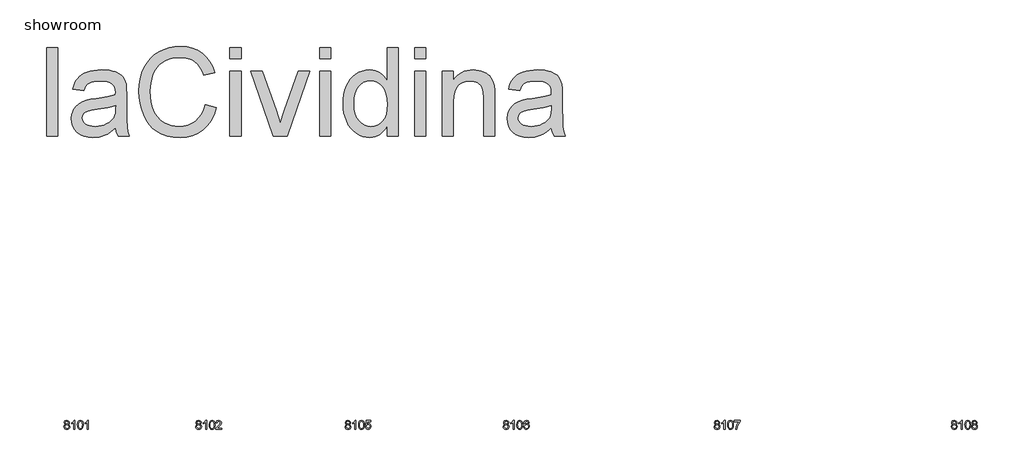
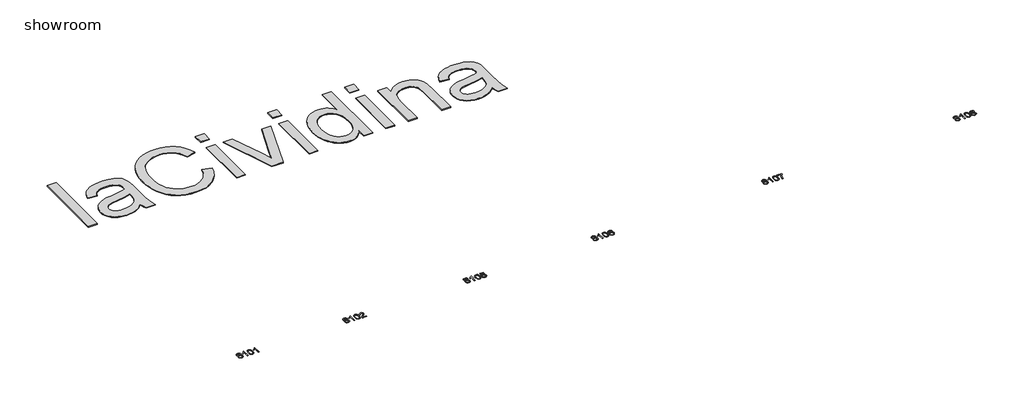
# One storey, incomplete: 7 proxies.
"""IFC4 building model written with IfcOpenShell, lengths in millimetres."""

from ifc_helpers import new_model, si_unit, origin, origin_with_axes, place, context, project, spatial, polyline, outline, extrude, element, save

model = new_model("IFC4")

# Units and contexts
model_context = context("Model", 3, world=origin())
ifc_project = project(units=[si_unit("LENGTHUNIT", "METRE", prefix="MILLI")], contexts=[model_context])

# Site, building, storey
site = spatial("IfcSite", under=ifc_project)
building = spatial("IfcBuilding", under=site)
storey = spatial("IfcBuildingStorey", under=building, Name="showroom", Elevation=0.0)

# Proxies
placement = place(None, origin())
element("IfcBuildingElementProxy", 1, Name="1000mm Arial", ObjectType="1000mm Arial", at=placement, inside=storey, context=model_context, shape_type="SweptSolid", body=[
    extrude(outline(polyline([(-1952.8965336, 4695.1020807), (-1952.8965336, 5699.6651822), (-1827.326146, 5699.6651822), (-1827.326146, 4695.1020807), (-1952.8965336, 4695.1020807)])), origin_with_axes(), (0.0, 0.0, 1.0), 10.0),
    extrude(outline(polyline([(-1168.0816106, 4789.2798714), (-1197.8570596, 4761.3361682), (-1228.0770326, 4737.8377058), (-1258.7415298, 4718.7844841), (-1289.850551, 4704.1765032), (-1321.7566499, 4693.3393128), (-1354.81238, 4685.5984625), (-1389.0177413, 4680.9539523), (-1424.3727339, 4679.4057822), (-1480.283133, 4683.1305874), (-1529.311073, 4694.305003), (-1571.4565541, 4712.929029), (-1606.7195762, 4739.0026654), (-1634.5636447, 4770.8704433), (-1654.4522651, 4806.8768935), (-1666.3854373, 4847.0220163), (-1670.3631613, 4891.3058114), (-1664.3544221, 4943.3611138), (-1656.843498, 4967.5953402), (-1646.3282043, 4990.6339501), (-1618.5224569, 5031.1009696), (-1583.1751285, 5062.7388212), (-1541.6351199, 5086.6511509), (-1495.2513316, 5103.9416046), (-1450.0631599, 5113.5678502), (-1386.6035157, 5122.8262137), (-1258.2126994, 5142.6918415), (-1208.6406006, 5153.9122423), (-1168.8173746, 5165.9910345), (-1168.0816106, 5193.9500661), (-1170.2429173, 5224.3923012), (-1176.7268375, 5249.9907567), (-1187.5333711, 5270.7454326), (-1202.6625181, 5286.6563289), (-1228.8127966, 5302.5365684), (-1260.665246, 5313.8795966), (-1298.2198664, 5320.6854135), (-1341.4766577, 5322.9540191), (-1381.6984225, 5321.4441701), (-1416.27933, 5316.914623), (-1445.2193803, 5309.3653779), (-1468.5185733, 5298.7964348), (-1487.6637655, 5284.3800591), (-1504.1418132, 5265.2885164), (-1517.9527164, 5241.5218066), (-1529.0964752, 5213.0799299), (-1654.6668629, 5228.7762283), (-1645.1095952, 5264.9512912), (-1632.8698547, 5297.4475341), (-1617.9476412, 5326.2649571), (-1600.3429549, 5351.4035601), (-1579.2970391, 5373.3691809), (-1554.0511372, 5392.6676572), (-1524.6052492, 5409.2989891), (-1490.959375, 5423.2631765), (-1453.7956293, 5434.3149647), (-1413.7961265, 5442.2090992), (-1370.9608667, 5446.9455799), (-1325.2898499, 5448.5244068), (-1240.4010795, 5442.9448632), (-1204.5555776, 5435.9704337), (-1173.1093312, 5426.2062324), (-1122.3722727, 5401.0369726), (-1102.8208775, 5386.3140286), (-1087.1475717, 5370.1655418), (-1063.787065, 5331.9977848), (-1048.6425895, 5284.9395463), (-1044.0440646, 5241.5294708), (-1042.5112229, 5175.065457), (-1042.5112229, 5018.8382364), (-1040.9170676, 4882.752555), (-1036.1346017, 4800.6842133), (-1026.6922971, 4746.7588442), (-1011.118626, 4695.1020807), (-1136.6890137, 4695.1020807), (-1156.7998961, 4738.7574108), (-1168.0816106, 4789.2798714)]), holes=[polyline([(-1168.0816106, 5040.4206468), (-1252.4492148, 5019.5126868), (-1370.6619626, 5001.9156646), (-1435.8077326, 4992.2894191), (-1478.6966419, 4981.5595276), (-1506.8089577, 4967.6413254), (-1527.6249472, 4948.450148), (-1540.500817, 4925.4575233), (-1544.7927737, 4900.1349793), (-1542.4551901, 4880.6219052), (-1535.4424396, 4862.7949568), (-1523.7545221, 4846.6541343), (-1507.3914375, 4832.1994375), (-1486.50647, 4820.2892579), (-1461.2529039, 4811.7819868), (-1431.6307391, 4806.6776241), (-1397.6399756, 4804.9761699), (-1362.9364407, 4806.8539009), (-1330.1949431, 4812.487094), (-1299.4154829, 4821.8757491), (-1270.5980599, 4835.0198662), (-1244.6010656, 4850.8311278), (-1222.2828912, 4868.2212162), (-1203.6435368, 4887.1901316), (-1188.6830023, 4907.7378739), (-1179.9917902, 4926.1319736), (-1173.7837815, 4948.450148), (-1168.8173746, 5004.8587206), (-1168.0816106, 5040.4206468)])]), origin_with_axes(), (0.0, 0.0, 1.0), 10.0),
    extrude(outline(polyline([(-147.8222106, 5052.1928707), (-22.2518229, 5019.8192551), (-47.099186, 4941.7286374), (-80.1932372, 4873.4941915), (-121.5339764, 4815.1159174), (-145.296854, 4789.6228448), (-171.1214037, 4766.5938151), (-227.8365446, 4728.4490507), (-290.5604248, 4701.2027904), (-359.2930442, 4684.8550343), (-434.0344029, 4679.4057822), (-510.6075073, 4683.5291262), (-579.6850161, 4695.8991583), (-641.2669293, 4716.5158785), (-695.3532468, 4745.3792867), (-742.6873968, 4782.0601873), (-784.0128076, 4826.1293846), (-819.3294792, 4877.5868787), (-848.6374114, 4936.4326695), (-871.6530288, 5000.1222399), (-888.0927554, 5066.1110728), (-897.9565914, 5134.3991682), (-901.2445368, 5204.986526), (-897.5273958, 5280.7242317), (-886.3759728, 5351.4648737), (-867.7902678, 5417.208452), (-841.7702809, 5477.9549664), (-808.8984918, 5532.7004058), (-769.7573803, 5580.4407589), (-724.3469465, 5621.1760257), (-672.6671904, 5654.9062061), (-616.4732157, 5681.3553887), (-557.5201259, 5700.247662), (-495.8079212, 5711.583026), (-431.3366016, 5715.3614806), (-359.5153062, 5710.4717158), (-293.6567649, 5695.8024212), (-233.7609776, 5671.353597), (-179.8279442, 5637.125243), (-132.746713, 5594.0217359), (-93.4063322, 5542.9474522), (-61.8068016, 5483.902392), (-37.9481214, 5416.8865552), (-163.5185091, 5386.9654863), (-183.2921663, 5436.3459799), (-207.0512119, 5478.5374462), (-234.7956457, 5513.5398852), (-266.5254677, 5541.3532969), (-302.4246191, 5562.5448327), (-342.6770407, 5577.6816439), (-387.2827327, 5586.7637307), (-436.2416949, 5589.7910929), (-492.5736254, 5586.4341697), (-544.0924331, 5576.3634001), (-590.7981181, 5559.5787841), (-632.6906803, 5536.0803216), (-669.2412893, 5506.9256735), (-699.9211149, 5473.1725005), (-724.7301569, 5434.8208025), (-743.6684155, 5391.8705795), (-757.6709239, 5346.2685406), (-767.6727157, 5299.9613944), (-773.6737907, 5252.9491411), (-775.6741491, 5205.2317807), (-773.3059087, 5145.2670154), (-766.2011877, 5089.2263248), (-754.359986, 5037.1097089), (-737.7823036, 4988.9171675), (-716.1998932, 4945.6067268), (-689.3445075, 4908.1364127), (-657.2161466, 4876.5062253), (-619.8148104, 4850.7161646), (-578.9569164, 4830.7049169), (-536.4588817, 4816.4111686), (-492.3207065, 4807.8349196), (-446.5423907, 4804.9761699), (-391.9502355, 4808.8695877), (-341.7266789, 4820.549841), (-295.8717211, 4840.0169299), (-254.3853619, 4867.2708544), (-218.2486201, 4902.1889871), (-188.4425143, 4944.6487007), (-164.9670445, 4994.6499952), (-147.8222106, 5052.1928707)])), origin_with_axes(), (0.0, 0.0, 1.0), 10.0),
    extrude(outline(polyline([(134.7111617, 4695.1020807), (134.7111617, 5432.8281083), (260.2815493, 5432.8281083), (260.2815493, 4695.1020807), (134.7111617, 4695.1020807)])), origin_with_axes(), (0.0, 0.0, 1.0), 10.0),
    extrude(outline(polyline([(134.7111617, 5574.0947945), (134.7111617, 5699.6651822), (260.2815493, 5699.6651822), (260.2815493, 5574.0947945), (134.7111617, 5574.0947945)])), origin_with_axes(), (0.0, 0.0, 1.0), 10.0),
    extrude(outline(polyline([(629.6350725, 4695.1020807), (370.1556386, 5432.8281083), (503.0836662, 5432.8281083), (660.2919054, 4990.8792048), (707.6260555, 4842.2548787), (753.9791869, 4982.5405462), (912.1684448, 5432.8281083), (1045.0964724, 5432.8281083), (788.8053491, 4695.1020807), (629.6350725, 4695.1020807)])), origin_with_axes(), (0.0, 0.0, 1.0), 10.0),
    extrude(outline(polyline([(1154.9705616, 4695.1020807), (1154.9705616, 5432.8281083), (1280.5409493, 5432.8281083), (1280.5409493, 4695.1020807), (1154.9705616, 4695.1020807)])), origin_with_axes(), (0.0, 0.0, 1.0), 10.0),
    extrude(outline(polyline([(1154.9705616, 5574.0947945), (1154.9705616, 5699.6651822), (1280.5409493, 5699.6651822), (1280.5409493, 5574.0947945), (1154.9705616, 5574.0947945)])), origin_with_axes(), (0.0, 0.0, 1.0), 10.0),
    extrude(outline(polyline([(1924.0891862, 4695.1020807), (1924.0891862, 4813.5600831), (1906.2967268, 4782.1176688), (1886.5192374, 4754.8675765), (1864.7567182, 4731.809806), (1841.009169, 4712.9443574), (1815.2765898, 4698.2712308), (1787.5589807, 4687.790426), (1757.8563417, 4681.5019432), (1726.1686728, 4679.4057822), (1684.7206347, 4682.4408087), (1644.9893792, 4691.5458881), (1606.9749064, 4706.7210204), (1570.6772162, 4727.9662056), (1537.2306114, 4754.6453144), (1507.769395, 4786.1222176), (1482.2935668, 4822.3969152), (1460.8031269, 4863.4694071), (1443.7425994, 4908.5579442), (1431.5565083, 4956.8807771), (1424.2448537, 5008.4379059), (1421.8076355, 5063.2293305), (1424.0532485, 5117.0167439), (1430.7900875, 5168.2596401), (1442.0181526, 5216.9580192), (1457.7374436, 5263.1118812), (1477.9402965, 5305.3723254), (1502.6190471, 5342.3904512), (1531.7736952, 5374.1662585), (1565.4042409, 5400.6997474), (1602.322732, 5421.6230359), (1641.3412161, 5436.568242), (1682.4596932, 5445.5353656), (1725.6781635, 5448.5244068), (1757.2853582, 5446.3860927), (1787.1144567, 5439.9711504), (1815.1654588, 5429.2795799), (1841.4383646, 5414.3113812), (1865.6419342, 5395.9249457), (1887.4849277, 5374.9786646), (1906.967345, 5351.4725379), (1924.0891862, 5325.4065657), (1924.0891862, 5699.6651822), (2049.6595739, 5699.6651822), (2049.6595739, 4695.1020807), (1924.0891862, 4695.1020807)]), holes=[polyline([(1547.3780231, 5063.7198398), (1550.9188873, 5002.8277054), (1561.54148, 4950.1362738), (1579.245801, 4905.645545), (1604.0318504, 4869.3555191), (1633.6310226, 4841.1895538), (1665.7747119, 4821.0710072), (1700.4629184, 4808.9998792), (1737.695642, 4804.9761699), (1775.1046424, 4808.8159382), (1809.5859152, 4820.3352432), (1841.1394605, 4839.5340848), (1869.7652782, 4866.4124631), (1893.531988, 4901.1849758), (1910.5082092, 4944.0662209), (1920.693942, 4995.0561983), (1924.0891862, 5054.154908), (1920.6326283, 5118.9481244), (1910.2629545, 5174.5136341), (1892.980165, 5220.851437), (1868.7842596, 5257.9615333), (1839.5299768, 5286.3957458), (1807.0720549, 5306.7058977), (1771.410494, 5318.8919887), (1732.545294, 5322.9540191), (1694.5768065, 5319.0529371), (1659.8886, 5307.3496911), (1628.4806747, 5287.8442812), (1600.3530304, 5260.5367073), (1577.1764647, 5224.8291611), (1560.621775, 5180.1238345), (1550.6889611, 5126.4207274), (1547.3780231, 5063.7198398)])]), origin_with_axes(), (0.0, 0.0, 1.0), 10.0),
    extrude(outline(polyline([(2238.0151554, 4695.1020807), (2238.0151554, 5432.8281083), (2363.5855431, 5432.8281083), (2363.5855431, 4695.1020807), (2238.0151554, 4695.1020807)])), origin_with_axes(), (0.0, 0.0, 1.0), 10.0),
    extrude(outline(polyline([(2238.0151554, 5574.0947945), (2238.0151554, 5699.6651822), (2363.5855431, 5699.6651822), (2363.5855431, 5574.0947945), (2238.0151554, 5574.0947945)])), origin_with_axes(), (0.0, 0.0, 1.0), 10.0),
    extrude(outline(polyline([(2551.9411246, 4695.1020807), (2551.9411246, 5432.8281083), (2677.5115123, 5432.8281083), (2677.5115123, 5329.8211497), (2698.2278672, 5357.6422256), (2721.1361856, 5381.7538247), (2746.2364675, 5402.155947), (2773.5287131, 5418.8485925), (2803.0129221, 5431.8317613), (2834.6890948, 5441.1054532), (2868.5572309, 5446.6696684), (2904.6173307, 5448.5244068), (2966.5134764, 5442.5463244), (2995.5071761, 5435.0737213), (3023.1979605, 5424.6120771), (3048.5358329, 5411.7208789), (3070.4707968, 5396.9596138), (3089.0028523, 5380.3282819), (3104.1319994, 5361.8268833), (3126.9713399, 5319.305856), (3141.7785902, 5269.4885025), (3146.7449972, 5221.8477841), (3148.4004661, 5148.0874441), (3148.4004661, 4695.1020807), (3022.8300785, 4695.1020807), (3022.8300785, 5131.1648723), (3019.2125722, 5196.0960444), (3008.3600533, 5242.2652348), (2999.7378191, 5259.7319654), (2988.3411414, 5275.3439576), (2974.1700204, 5289.1012113), (2957.224456, 5301.0037267), (2917.3399163, 5317.466446), (2871.0174418, 5322.9540191), (2832.8880058, 5319.8730074), (2797.4716996, 5310.6299723), (2764.7685231, 5295.2249137), (2734.7784762, 5273.6578318), (2709.7241795, 5243.4761797), (2691.8282533, 5202.227411), (2681.0906976, 5149.9115256), (2677.5115123, 5086.5285235), (2677.5115123, 4695.1020807), (2551.9411246, 4695.1020807)])), origin_with_axes(), (0.0, 0.0, 1.0), 10.0),
    extrude(outline(polyline([(3791.948703, 4789.2798714), (3762.1732541, 4761.3361682), (3731.953281, 4737.8377058), (3701.2887839, 4718.7844841), (3670.1797626, 4704.1765032), (3638.2736638, 4693.3393128), (3605.2179337, 4685.5984625), (3571.0125723, 4680.9539523), (3535.6575797, 4679.4057822), (3479.7471807, 4683.1305874), (3430.7192406, 4694.305003), (3388.5737595, 4712.929029), (3353.3107375, 4739.0026654), (3325.466669, 4770.8704433), (3305.5780486, 4806.8768935), (3293.6448764, 4847.0220163), (3289.6671523, 4891.3058114), (3295.6758915, 4943.3611138), (3303.1868156, 4967.5953402), (3313.7021093, 4990.6339501), (3341.5078568, 5031.1009696), (3376.8551852, 5062.7388212), (3418.3951938, 5086.6511509), (3464.778982, 5103.9416046), (3509.9671537, 5113.5678502), (3573.4267979, 5122.8262137), (3701.8176142, 5142.6918415), (3751.3897131, 5153.9122423), (3791.2129391, 5165.9910345), (3791.948703, 5193.9500661), (3789.7873963, 5224.3923012), (3783.3034762, 5249.9907567), (3772.4969425, 5270.7454326), (3757.3677955, 5286.6563289), (3731.217517, 5302.5365684), (3699.3650676, 5313.8795966), (3661.8104472, 5320.6854135), (3618.553656, 5322.9540191), (3578.3318912, 5321.4441701), (3543.7509836, 5316.914623), (3514.8109333, 5309.3653779), (3491.5117403, 5298.7964348), (3472.3665481, 5284.3800591), (3455.8885004, 5265.2885164), (3442.0775972, 5241.5218066), (3430.9338384, 5213.0799299), (3305.3634508, 5228.7762283), (3314.9207184, 5264.9512912), (3327.160459, 5297.4475341), (3342.0826724, 5326.2649571), (3359.6873587, 5351.4035601), (3380.7332745, 5373.3691809), (3405.9791764, 5392.6676572), (3435.4250645, 5409.2989891), (3469.0709386, 5423.2631765), (3506.2346843, 5434.3149647), (3546.2341871, 5442.2090992), (3589.0694469, 5446.9455799), (3634.7404638, 5448.5244068), (3719.6292342, 5442.9448632), (3755.4747361, 5435.9704337), (3786.9209824, 5426.2062324), (3837.6580409, 5401.0369726), (3857.2094361, 5386.3140286), (3872.882742, 5370.1655418), (3896.2432487, 5331.9977848), (3911.3877241, 5284.9395463), (3915.9862491, 5241.5294708), (3917.5190907, 5175.065457), (3917.5190907, 5018.8382364), (3919.113246, 4882.752555), (3923.895712, 4800.6842133), (3933.3380165, 4746.7588442), (3948.9116877, 4695.1020807), (3823.3413, 4695.1020807), (3803.2304176, 4738.7574108), (3791.948703, 4789.2798714)]), holes=[polyline([(3791.948703, 5040.4206468), (3707.5810988, 5019.5126868), (3589.368351, 5001.9156646), (3524.2225811, 4992.2894191), (3481.3336718, 4981.5595276), (3453.221356, 4967.6413254), (3432.4053664, 4948.450148), (3419.5294966, 4925.4575233), (3415.23754, 4900.1349793), (3417.5751235, 4880.6219052), (3424.587874, 4862.7949568), (3436.2757916, 4846.6541343), (3452.6388762, 4832.1994375), (3473.5238436, 4820.2892579), (3498.7774097, 4811.7819868), (3528.3995745, 4806.6776241), (3562.3903381, 4804.9761699), (3597.0938729, 4806.8539009), (3629.8353705, 4812.487094), (3660.6148308, 4821.8757491), (3689.4322537, 4835.0198662), (3715.429248, 4850.8311278), (3737.7474224, 4868.2212162), (3756.3867768, 4887.1901316), (3771.3473113, 4907.7378739), (3780.0385234, 4926.1319736), (3786.2465321, 4948.450148), (3791.2129391, 5004.8587206), (3791.948703, 5040.4206468)])]), origin_with_axes(), (0.0, 0.0, 1.0), 10.0),
])
element("IfcBuildingElementProxy", 2, Name="100mm Arial", ObjectType="100mm Arial", at=placement, inside=storey, context=model_context, shape_type="SweptSolid", body=[
    extrude(outline(polyline([(-1736.9038584, 1410.4315327), (-1748.3449884, 1418.230631), (-1752.0605966, 1430.3707369), (-1750.0372456, 1440.1870548), (-1743.9671927, 1448.2988528), (-1734.5310195, 1453.7435063), (-1722.4093078, 1455.5583908), (-1710.2140196, 1453.7005867), (-1700.6552191, 1448.1271745), (-1694.4748016, 1439.8866178), (-1692.4146624, 1430.0273804), (-1696.0812196, 1418.1938428), (-1707.2035186, 1410.4315327), (-1693.8494022, 1400.584558), (-1689.2754027, 1384.3364366), (-1691.5440084, 1372.3312208), (-1698.3498253, 1362.4106696), (-1708.8589876, 1355.7520055), (-1722.2376295, 1353.5324508), (-1735.6162714, 1355.7612026), (-1746.1254337, 1362.4474578), (-1752.9312506, 1372.4630452), (-1755.1998563, 1384.6797931), (-1750.4419158, 1401.3080593), (-1736.9038584, 1410.4315327)]), holes=[polyline([(-1739.5035578, 1430.0028549), (-1735.0521857, 1420.1436174), (-1722.0904767, 1416.3176447), (-1709.3862851, 1420.119092), (-1704.9717012, 1429.4387692), (-1709.5334379, 1439.0895402), (-1722.2376295, 1443.0013521), (-1734.9786093, 1439.1753793), (-1739.5035578, 1430.0028549)]), polyline([(-1742.6428175, 1385.1212515), (-1740.5458901, 1375.6666842), (-1733.1269365, 1368.5910872), (-1722.1395276, 1366.0894896), (-1713.5924026, 1367.4046677), (-1707.1789932, 1371.3502021), (-1701.8324415, 1384.728844), (-1707.3506714, 1398.3650033), (-1713.9112337, 1402.4117053), (-1722.5564606, 1403.7606059), (-1730.9840239, 1402.4300994), (-1737.333054, 1398.4385797), (-1742.6428175, 1385.1212515)])]), origin_with_axes(), (0.0, 0.0, 1.0), 2.0),
    extrude(outline(polyline([(-1631.1990984, 1355.1020807), (-1643.7561372, 1355.1020807), (-1643.7561372, 1433.3873692), (-1655.6509884, 1424.9138206), (-1668.8702147, 1418.5739876), (-1668.8702147, 1430.4443133), (-1650.4638522, 1442.1920117), (-1639.2925023, 1455.5583908), (-1631.1990984, 1455.5583908), (-1631.1990984, 1355.1020807)])), origin_with_axes(), (0.0, 0.0, 1.0), 2.0),
    extrude(outline(polyline([(-1601.3761313, 1404.5208954), (-1597.6850487, 1433.4241574), (-1586.7221652, 1450.0892118), (-1568.4139046, 1455.5583908), (-1553.7476757, 1452.3210293), (-1543.6186581, 1442.9890893), (-1537.7325462, 1428.1266567), (-1535.4516778, 1404.5208954), (-1539.1059723, 1375.7402606), (-1550.0320675, 1359.038418), (-1558.2634272, 1354.9089426), (-1568.4139046, 1353.5324508), (-1581.4614527, 1355.9236838), (-1591.3697411, 1363.0973827), (-1598.8745338, 1380.0873995), (-1601.3761313, 1404.5208954)]), holes=[polyline([(-1588.8190926, 1404.5454208), (-1587.3475646, 1384.7932234), (-1582.9329806, 1373.3612904), (-1576.3601557, 1367.9074398), (-1568.4139046, 1366.0894896), (-1560.4676535, 1367.9135712), (-1553.8948285, 1373.3858158), (-1549.4802446, 1384.8238802), (-1548.0087166, 1404.5454208), (-1549.4311936, 1423.8530942), (-1553.6986248, 1435.373932), (-1560.259187, 1441.094497), (-1568.5610574, 1443.0013521), (-1576.4214693, 1441.3213576), (-1582.7367769, 1436.2813743), (-1587.2985137, 1424.0431666), (-1588.8190926, 1404.5454208)])]), origin_with_axes(), (0.0, 0.0, 1.0), 2.0),
    extrude(outline(polyline([(-1477.3753735, 1355.1020807), (-1489.9324123, 1355.1020807), (-1489.9324123, 1433.3873692), (-1501.8272634, 1424.9138206), (-1515.0464898, 1418.5739876), (-1515.0464898, 1430.4443133), (-1496.6401273, 1442.1920117), (-1485.4687774, 1455.5583908), (-1477.3753735, 1455.5583908), (-1477.3753735, 1355.1020807)])), origin_with_axes(), (0.0, 0.0, 1.0), 2.0),
])
element("IfcBuildingElementProxy", 3, Name="100mm Arial", ObjectType="100mm Arial", at=placement, inside=storey, context=model_context, shape_type="SweptSolid", body=[
    extrude(outline(polyline([(-236.9038584, 1410.4315327), (-248.3449884, 1418.230631), (-252.0605966, 1430.3707369), (-250.0372456, 1440.1870548), (-243.9671927, 1448.2988528), (-234.5310195, 1453.7435063), (-222.4093078, 1455.5583908), (-210.2140196, 1453.7005867), (-200.6552191, 1448.1271745), (-194.4748016, 1439.8866178), (-192.4146624, 1430.0273804), (-196.0812196, 1418.1938428), (-207.2035186, 1410.4315327), (-193.8494022, 1400.584558), (-189.2754027, 1384.3364366), (-191.5440084, 1372.3312208), (-198.3498253, 1362.4106696), (-208.8589876, 1355.7520055), (-222.2376295, 1353.5324508), (-235.6162714, 1355.7612026), (-246.1254337, 1362.4474578), (-252.9312506, 1372.4630452), (-255.1998563, 1384.6797931), (-250.4419158, 1401.3080593), (-236.9038584, 1410.4315327)]), holes=[polyline([(-239.5035578, 1430.0028549), (-235.0521857, 1420.1436174), (-222.0904767, 1416.3176447), (-209.3862851, 1420.119092), (-204.9717012, 1429.4387692), (-209.5334379, 1439.0895402), (-222.2376295, 1443.0013521), (-234.9786093, 1439.1753793), (-239.5035578, 1430.0028549)]), polyline([(-242.6428175, 1385.1212515), (-240.5458901, 1375.6666842), (-233.1269365, 1368.5910872), (-222.1395276, 1366.0894896), (-213.5924026, 1367.4046677), (-207.1789932, 1371.3502021), (-201.8324415, 1384.728844), (-207.3506714, 1398.3650033), (-213.9112337, 1402.4117053), (-222.5564606, 1403.7606059), (-230.9840239, 1402.4300994), (-237.333054, 1398.4385797), (-242.6428175, 1385.1212515)])]), origin_with_axes(), (0.0, 0.0, 1.0), 2.0),
    extrude(outline(polyline([(-131.1990984, 1355.1020807), (-143.7561372, 1355.1020807), (-143.7561372, 1433.3873692), (-155.6509884, 1424.9138206), (-168.8702147, 1418.5739876), (-168.8702147, 1430.4443133), (-150.4638522, 1442.1920117), (-139.2925023, 1455.5583908), (-131.1990984, 1455.5583908), (-131.1990984, 1355.1020807)])), origin_with_axes(), (0.0, 0.0, 1.0), 2.0),
    extrude(outline(polyline([(-101.3761313, 1404.5208954), (-97.6850487, 1433.4241574), (-86.7221652, 1450.0892118), (-68.4139046, 1455.5583908), (-53.7476757, 1452.3210293), (-43.6186581, 1442.9890893), (-37.7325462, 1428.1266567), (-35.4516778, 1404.5208954), (-39.1059723, 1375.7402606), (-50.0320675, 1359.038418), (-58.2634272, 1354.9089426), (-68.4139046, 1353.5324508), (-81.4614527, 1355.9236838), (-91.3697411, 1363.0973827), (-98.8745338, 1380.0873995), (-101.3761313, 1404.5208954)]), holes=[polyline([(-88.8190926, 1404.5454208), (-87.3475646, 1384.7932234), (-82.9329806, 1373.3612904), (-76.3601557, 1367.9074398), (-68.4139046, 1366.0894896), (-60.4676535, 1367.9135712), (-53.8948285, 1373.3858158), (-49.4802446, 1384.8238802), (-48.0087166, 1404.5454208), (-49.4311936, 1423.8530942), (-53.6986248, 1435.373932), (-60.259187, 1441.094497), (-68.5610574, 1443.0013521), (-76.4214693, 1441.3213576), (-82.7367769, 1436.2813743), (-87.2985137, 1424.0431666), (-88.8190926, 1404.5454208)])]), origin_with_axes(), (0.0, 0.0, 1.0), 2.0),
    extrude(outline(polyline([(39.8905548, 1367.6591194), (39.8905548, 1355.1020807), (-26.0338987, 1355.1020807), (-24.6849981, 1363.7595703), (-17.057578, 1377.0891613), (-1.3367541, 1391.6450255), (20.3437581, 1412.5652483), (25.7638862, 1426.7900188), (20.6503265, 1438.3047252), (7.29621, 1443.0013521), (-6.6219921, 1438.4150898), (-11.9072301, 1425.7354237), (-24.4642689, 1427.3050536), (-21.4200454, 1439.4512908), (-14.8380233, 1448.3233782), (-5.0615593, 1453.7496377), (7.5659902, 1455.5583908), (20.2855101, 1453.5473026), (30.0435801, 1447.5140379), (36.2515887, 1438.500929), (38.320925, 1427.5503083), (36.0891075, 1415.6431943), (28.670154, 1403.3314102), (10.6807244, 1386.1267956), (-3.7647753, 1374.0480034), (-9.430158, 1367.6591194), (39.8905548, 1367.6591194)])), origin_with_axes(), (0.0, 0.0, 1.0), 2.0),
])
element("IfcBuildingElementProxy", 4, Name="100mm Arial", ObjectType="100mm Arial", at=placement, inside=storey, context=model_context, shape_type="SweptSolid", body=[
    extrude(outline(polyline([(1463.0961416, 1410.4315327), (1451.6550116, 1418.230631), (1447.9394034, 1430.3707369), (1449.9627544, 1440.1870548), (1456.0328073, 1448.2988528), (1465.4689805, 1453.7435063), (1477.5906922, 1455.5583908), (1489.7859804, 1453.7005867), (1499.3447809, 1448.1271745), (1505.5251984, 1439.8866178), (1507.5853376, 1430.0273804), (1503.9187804, 1418.1938428), (1492.7964814, 1410.4315327), (1506.1505978, 1400.584558), (1510.7245973, 1384.3364366), (1508.4559916, 1372.3312208), (1501.6501747, 1362.4106696), (1491.1410124, 1355.7520055), (1477.7623705, 1353.5324508), (1464.3837286, 1355.7612026), (1453.8745663, 1362.4474578), (1447.0687494, 1372.4630452), (1444.8001437, 1384.6797931), (1449.5580842, 1401.3080593), (1463.0961416, 1410.4315327)]), holes=[polyline([(1460.4964422, 1430.0028549), (1464.9478143, 1420.1436174), (1477.9095233, 1416.3176447), (1490.6137149, 1420.119092), (1495.0282988, 1429.4387692), (1490.4665621, 1439.0895402), (1477.7623705, 1443.0013521), (1465.0213907, 1439.1753793), (1460.4964422, 1430.0028549)]), polyline([(1457.3571825, 1385.1212515), (1459.4541099, 1375.6666842), (1466.8730635, 1368.5910872), (1477.8604724, 1366.0894896), (1486.4075974, 1367.4046677), (1492.8210068, 1371.3502021), (1498.1675585, 1384.728844), (1492.6493286, 1398.3650033), (1486.0887663, 1402.4117053), (1477.4435394, 1403.7606059), (1469.0159761, 1402.4300994), (1462.666946, 1398.4385797), (1457.3571825, 1385.1212515)])]), origin_with_axes(), (0.0, 0.0, 1.0), 2.0),
    extrude(outline(polyline([(1568.8009016, 1355.1020807), (1556.2438628, 1355.1020807), (1556.2438628, 1433.3873692), (1544.3490116, 1424.9138206), (1531.1297853, 1418.5739876), (1531.1297853, 1430.4443133), (1549.5361478, 1442.1920117), (1560.7074977, 1455.5583908), (1568.8009016, 1455.5583908), (1568.8009016, 1355.1020807)])), origin_with_axes(), (0.0, 0.0, 1.0), 2.0),
    extrude(outline(polyline([(1598.6238687, 1404.5208954), (1602.3149513, 1433.4241574), (1613.2778348, 1450.0892118), (1631.5860954, 1455.5583908), (1646.2523243, 1452.3210293), (1656.3813419, 1442.9890893), (1662.2674538, 1428.1266567), (1664.5483222, 1404.5208954), (1660.8940277, 1375.7402606), (1649.9679325, 1359.038418), (1641.7365728, 1354.9089426), (1631.5860954, 1353.5324508), (1618.5385473, 1355.9236838), (1608.6302589, 1363.0973827), (1601.1254662, 1380.0873995), (1598.6238687, 1404.5208954)]), holes=[polyline([(1611.1809074, 1404.5454208), (1612.6524354, 1384.7932234), (1617.0670194, 1373.3612904), (1623.6398443, 1367.9074398), (1631.5860954, 1366.0894896), (1639.5323465, 1367.9135712), (1646.1051715, 1373.3858158), (1650.5197554, 1384.8238802), (1651.9912834, 1404.5454208), (1650.5688064, 1423.8530942), (1646.3013752, 1435.373932), (1639.740813, 1441.094497), (1631.4389426, 1443.0013521), (1623.5785307, 1441.3213576), (1617.2632231, 1436.2813743), (1612.7014863, 1424.0431666), (1611.1809074, 1404.5454208)])]), origin_with_axes(), (0.0, 0.0, 1.0), 2.0),
    extrude(outline(polyline([(1675.5357311, 1381.7857881), (1688.0927699, 1383.3554179), (1694.4203402, 1370.4182344), (1707.5414647, 1366.0894896), (1716.5423108, 1367.5947401), (1723.2868141, 1372.1104916), (1727.4990629, 1379.1155779), (1728.9031459, 1388.0888329), (1723.6424334, 1403.0003164), (1717.0358859, 1407.1022007), (1707.7376684, 1408.4694954), (1696.7134713, 1406.2867289), (1689.6623997, 1400.6213462), (1677.105361, 1402.1909761), (1688.0927699, 1453.988761), (1736.7512951, 1453.988761), (1736.7512951, 1441.4317222), (1698.246313, 1441.4317222), (1692.8752358, 1413.7669962), (1701.8454251, 1419.2116497), (1711.2448101, 1421.0265342), (1722.9771801, 1418.7763227), (1732.7168559, 1412.0256881), (1739.2743525, 1401.7372549), (1741.4601847, 1388.8736478), (1739.492016, 1376.3166091), (1733.58751, 1365.5744548), (1722.28127, 1356.5429518), (1707.4924138, 1353.5324508), (1695.1591699, 1355.466897), (1685.3336549, 1361.2702355), (1678.5983487, 1370.2680159), (1675.5357311, 1381.7857881)])), origin_with_axes(), (0.0, 0.0, 1.0), 2.0),
])
element("IfcBuildingElementProxy", 5, Name="100mm Arial", ObjectType="100mm Arial", at=placement, inside=storey, context=model_context, shape_type="SweptSolid", body=[
    extrude(outline(polyline([(3263.0961416, 1410.4315327), (3251.6550116, 1418.230631), (3247.9394034, 1430.3707369), (3249.9627544, 1440.1870548), (3256.0328073, 1448.2988528), (3265.4689805, 1453.7435063), (3277.5906922, 1455.5583908), (3289.7859804, 1453.7005867), (3299.3447809, 1448.1271745), (3305.5251984, 1439.8866178), (3307.5853376, 1430.0273804), (3303.9187804, 1418.1938428), (3292.7964814, 1410.4315327), (3306.1505978, 1400.584558), (3310.7245973, 1384.3364366), (3308.4559916, 1372.3312208), (3301.6501747, 1362.4106696), (3291.1410124, 1355.7520055), (3277.7623705, 1353.5324508), (3264.3837286, 1355.7612026), (3253.8745663, 1362.4474578), (3247.0687494, 1372.4630452), (3244.8001437, 1384.6797931), (3249.5580842, 1401.3080593), (3263.0961416, 1410.4315327)]), holes=[polyline([(3260.4964422, 1430.0028549), (3264.9478143, 1420.1436174), (3277.9095233, 1416.3176447), (3290.6137149, 1420.119092), (3295.0282988, 1429.4387692), (3290.4665621, 1439.0895402), (3277.7623705, 1443.0013521), (3265.0213907, 1439.1753793), (3260.4964422, 1430.0028549)]), polyline([(3257.3571825, 1385.1212515), (3259.4541099, 1375.6666842), (3266.8730635, 1368.5910872), (3277.8604724, 1366.0894896), (3286.4075974, 1367.4046677), (3292.8210068, 1371.3502021), (3298.1675585, 1384.728844), (3292.6493286, 1398.3650033), (3286.0887663, 1402.4117053), (3277.4435394, 1403.7606059), (3269.0159761, 1402.4300994), (3262.666946, 1398.4385797), (3257.3571825, 1385.1212515)])]), origin_with_axes(), (0.0, 0.0, 1.0), 2.0),
    extrude(outline(polyline([(3368.8009016, 1355.1020807), (3356.2438628, 1355.1020807), (3356.2438628, 1433.3873692), (3344.3490116, 1424.9138206), (3331.1297853, 1418.5739876), (3331.1297853, 1430.4443133), (3349.5361478, 1442.1920117), (3360.7074977, 1455.5583908), (3368.8009016, 1455.5583908), (3368.8009016, 1355.1020807)])), origin_with_axes(), (0.0, 0.0, 1.0), 2.0),
    extrude(outline(polyline([(3398.6238687, 1404.5208954), (3402.3149513, 1433.4241574), (3413.2778348, 1450.0892118), (3431.5860954, 1455.5583908), (3446.2523243, 1452.3210293), (3456.3813419, 1442.9890893), (3462.2674538, 1428.1266567), (3464.5483222, 1404.5208954), (3460.8940277, 1375.7402606), (3449.9679325, 1359.038418), (3441.7365728, 1354.9089426), (3431.5860954, 1353.5324508), (3418.5385473, 1355.9236838), (3408.6302589, 1363.0973827), (3401.1254662, 1380.0873995), (3398.6238687, 1404.5208954)]), holes=[polyline([(3411.1809074, 1404.5454208), (3412.6524354, 1384.7932234), (3417.0670194, 1373.3612904), (3423.6398443, 1367.9074398), (3431.5860954, 1366.0894896), (3439.5323465, 1367.9135712), (3446.1051715, 1373.3858158), (3450.5197554, 1384.8238802), (3451.9912834, 1404.5454208), (3450.5688064, 1423.8530942), (3446.3013752, 1435.373932), (3439.740813, 1441.094497), (3431.4389426, 1443.0013521), (3423.5785307, 1441.3213576), (3417.2632231, 1436.2813743), (3412.7014863, 1424.0431666), (3411.1809074, 1404.5454208)])]), origin_with_axes(), (0.0, 0.0, 1.0), 2.0),
    extrude(outline(polyline([(3539.8905548, 1428.8746834), (3527.333516, 1427.3050536), (3522.5755756, 1437.7774277), (3509.9940113, 1443.0013521), (3498.6632459, 1439.9601942), (3490.0915954, 1428.5435896), (3486.52314, 1406.1641016), (3497.5963881, 1416.1827546), (3511.3183865, 1419.4569044), (3522.9189321, 1417.2189556), (3532.6555422, 1410.5051091), (3539.259024, 1400.2473328), (3541.4601847, 1387.3775944), (3537.3153808, 1370.0503524), (3525.911039, 1357.7876192), (3509.4544511, 1353.5324508), (3495.2082208, 1356.3528795), (3483.8621269, 1364.8141653), (3476.4401077, 1379.7501743), (3473.9661013, 1401.9947723), (3476.7129535, 1427.0046166), (3484.9535102, 1444.104998), (3496.2045679, 1452.6950426), (3510.7788263, 1455.5583908), (3521.796892, 1453.7864259), (3530.6199285, 1448.470531), (3536.800346, 1440.0276393), (3539.8905548, 1428.8746834)]), holes=[polyline([(3486.52314, 1387.5737981), (3489.4294078, 1376.6967538), (3497.1549297, 1368.7995536), (3508.4734324, 1366.0894896), (3516.7599744, 1367.4935725), (3523.2745514, 1371.7058214), (3527.4959973, 1378.3276973), (3528.9031459, 1386.9606615), (3527.5143914, 1395.2472034), (3523.3481278, 1401.5655767), (3516.7231862, 1405.5662934), (3507.9583976, 1406.8998656), (3492.7648712, 1401.5655767), (3488.0835728, 1395.4004876), (3486.52314, 1387.5737981)])]), origin_with_axes(), (0.0, 0.0, 1.0), 2.0),
])
element("IfcBuildingElementProxy", 6, Name="100mm Arial", ObjectType="100mm Arial", at=placement, inside=storey, context=model_context, shape_type="SweptSolid", body=[
    extrude(outline(polyline([(5663.0961416, 1410.4315327), (5651.6550116, 1418.230631), (5647.9394034, 1430.3707369), (5649.9627544, 1440.1870548), (5656.0328073, 1448.2988528), (5665.4689805, 1453.7435063), (5677.5906922, 1455.5583908), (5689.7859804, 1453.7005867), (5699.3447809, 1448.1271745), (5705.5251984, 1439.8866178), (5707.5853376, 1430.0273804), (5703.9187804, 1418.1938428), (5692.7964814, 1410.4315327), (5706.1505978, 1400.584558), (5710.7245973, 1384.3364366), (5708.4559916, 1372.3312208), (5701.6501747, 1362.4106696), (5691.1410124, 1355.7520055), (5677.7623705, 1353.5324508), (5664.3837286, 1355.7612026), (5653.8745663, 1362.4474578), (5647.0687494, 1372.4630452), (5644.8001437, 1384.6797931), (5649.5580842, 1401.3080593), (5663.0961416, 1410.4315327)]), holes=[polyline([(5660.4964422, 1430.0028549), (5664.9478143, 1420.1436174), (5677.9095233, 1416.3176447), (5690.6137149, 1420.119092), (5695.0282988, 1429.4387692), (5690.4665621, 1439.0895402), (5677.7623705, 1443.0013521), (5665.0213907, 1439.1753793), (5660.4964422, 1430.0028549)]), polyline([(5657.3571825, 1385.1212515), (5659.4541099, 1375.6666842), (5666.8730635, 1368.5910872), (5677.8604724, 1366.0894896), (5686.4075974, 1367.4046677), (5692.8210068, 1371.3502021), (5698.1675585, 1384.728844), (5692.6493286, 1398.3650033), (5686.0887663, 1402.4117053), (5677.4435394, 1403.7606059), (5669.0159761, 1402.4300994), (5662.666946, 1398.4385797), (5657.3571825, 1385.1212515)])]), origin_with_axes(), (0.0, 0.0, 1.0), 2.0),
    extrude(outline(polyline([(5768.8009016, 1355.1020807), (5756.2438628, 1355.1020807), (5756.2438628, 1433.3873692), (5744.3490116, 1424.9138206), (5731.1297853, 1418.5739876), (5731.1297853, 1430.4443133), (5749.5361478, 1442.1920117), (5760.7074977, 1455.5583908), (5768.8009016, 1455.5583908), (5768.8009016, 1355.1020807)])), origin_with_axes(), (0.0, 0.0, 1.0), 2.0),
    extrude(outline(polyline([(5798.6238687, 1404.5208954), (5802.3149513, 1433.4241574), (5813.2778348, 1450.0892118), (5831.5860954, 1455.5583908), (5846.2523243, 1452.3210293), (5856.3813419, 1442.9890893), (5862.2674538, 1428.1266567), (5864.5483222, 1404.5208954), (5860.8940277, 1375.7402606), (5849.9679325, 1359.038418), (5841.7365728, 1354.9089426), (5831.5860954, 1353.5324508), (5818.5385473, 1355.9236838), (5808.6302589, 1363.0973827), (5801.1254662, 1380.0873995), (5798.6238687, 1404.5208954)]), holes=[polyline([(5811.1809074, 1404.5454208), (5812.6524354, 1384.7932234), (5817.0670194, 1373.3612904), (5823.6398443, 1367.9074398), (5831.5860954, 1366.0894896), (5839.5323465, 1367.9135712), (5846.1051715, 1373.3858158), (5850.5197554, 1384.8238802), (5851.9912834, 1404.5454208), (5850.5688064, 1423.8530942), (5846.3013752, 1435.373932), (5839.740813, 1441.094497), (5831.4389426, 1443.0013521), (5823.5785307, 1441.3213576), (5817.2632231, 1436.2813743), (5812.7014863, 1424.0431666), (5811.1809074, 1404.5454208)])]), origin_with_axes(), (0.0, 0.0, 1.0), 2.0),
    extrude(outline(polyline([(5875.5357311, 1441.4317222), (5875.5357311, 1453.988761), (5941.4601847, 1453.988761), (5941.4601847, 1443.8352179), (5922.7595166, 1416.8204167), (5908.448907, 1382.3989247), (5903.7890683, 1355.1020807), (5891.2320296, 1355.1020807), (5896.222962, 1383.4289943), (5909.9204349, 1415.4469906), (5928.9031459, 1441.4317222), (5875.5357311, 1441.4317222)])), origin_with_axes(), (0.0, 0.0, 1.0), 2.0),
])
element("IfcBuildingElementProxy", 7, Name="100mm Arial", ObjectType="100mm Arial", at=placement, inside=storey, context=model_context, shape_type="SweptSolid", body=[
    extrude(outline(polyline([(8363.0961416, 1410.4315327), (8351.6550116, 1418.230631), (8347.9394034, 1430.3707369), (8349.9627544, 1440.1870548), (8356.0328073, 1448.2988528), (8365.4689805, 1453.7435063), (8377.5906922, 1455.5583908), (8389.7859804, 1453.7005867), (8399.3447809, 1448.1271745), (8405.5251984, 1439.8866178), (8407.5853376, 1430.0273804), (8403.9187804, 1418.1938428), (8392.7964814, 1410.4315327), (8406.1505978, 1400.584558), (8410.7245973, 1384.3364366), (8408.4559916, 1372.3312208), (8401.6501747, 1362.4106696), (8391.1410124, 1355.7520055), (8377.7623705, 1353.5324508), (8364.3837286, 1355.7612026), (8353.8745663, 1362.4474578), (8347.0687494, 1372.4630452), (8344.8001437, 1384.6797931), (8349.5580842, 1401.3080593), (8363.0961416, 1410.4315327)]), holes=[polyline([(8360.4964422, 1430.0028549), (8364.9478143, 1420.1436174), (8377.9095233, 1416.3176447), (8390.6137149, 1420.119092), (8395.0282988, 1429.4387692), (8390.4665621, 1439.0895402), (8377.7623705, 1443.0013521), (8365.0213907, 1439.1753793), (8360.4964422, 1430.0028549)]), polyline([(8357.3571825, 1385.1212515), (8359.4541099, 1375.6666842), (8366.8730635, 1368.5910872), (8377.8604724, 1366.0894896), (8386.4075974, 1367.4046677), (8392.8210068, 1371.3502021), (8398.1675585, 1384.728844), (8392.6493286, 1398.3650033), (8386.0887663, 1402.4117053), (8377.4435394, 1403.7606059), (8369.0159761, 1402.4300994), (8362.666946, 1398.4385797), (8357.3571825, 1385.1212515)])]), origin_with_axes(), (0.0, 0.0, 1.0), 2.0),
    extrude(outline(polyline([(8468.8009016, 1355.1020807), (8456.2438628, 1355.1020807), (8456.2438628, 1433.3873692), (8444.3490116, 1424.9138206), (8431.1297853, 1418.5739876), (8431.1297853, 1430.4443133), (8449.5361478, 1442.1920117), (8460.7074977, 1455.5583908), (8468.8009016, 1455.5583908), (8468.8009016, 1355.1020807)])), origin_with_axes(), (0.0, 0.0, 1.0), 2.0),
    extrude(outline(polyline([(8498.6238687, 1404.5208954), (8502.3149513, 1433.4241574), (8513.2778348, 1450.0892118), (8531.5860954, 1455.5583908), (8546.2523243, 1452.3210293), (8556.3813419, 1442.9890893), (8562.2674538, 1428.1266567), (8564.5483222, 1404.5208954), (8560.8940277, 1375.7402606), (8549.9679325, 1359.038418), (8541.7365728, 1354.9089426), (8531.5860954, 1353.5324508), (8518.5385473, 1355.9236838), (8508.6302589, 1363.0973827), (8501.1254662, 1380.0873995), (8498.6238687, 1404.5208954)]), holes=[polyline([(8511.1809074, 1404.5454208), (8512.6524354, 1384.7932234), (8517.0670194, 1373.3612904), (8523.6398443, 1367.9074398), (8531.5860954, 1366.0894896), (8539.5323465, 1367.9135712), (8546.1051715, 1373.3858158), (8550.5197554, 1384.8238802), (8551.9912834, 1404.5454208), (8550.5688064, 1423.8530942), (8546.3013752, 1435.373932), (8539.740813, 1441.094497), (8531.4389426, 1443.0013521), (8523.5785307, 1441.3213576), (8517.2632231, 1436.2813743), (8512.7014863, 1424.0431666), (8511.1809074, 1404.5454208)])]), origin_with_axes(), (0.0, 0.0, 1.0), 2.0),
    extrude(outline(polyline([(8593.831729, 1410.4315327), (8582.390599, 1418.230631), (8578.6749908, 1430.3707369), (8580.6983418, 1440.1870548), (8586.7683947, 1448.2988528), (8596.2045679, 1453.7435063), (8608.3262796, 1455.5583908), (8620.5215678, 1453.7005867), (8630.0803683, 1448.1271745), (8636.2607858, 1439.8866178), (8638.320925, 1430.0273804), (8634.6543677, 1418.1938428), (8623.5320688, 1410.4315327), (8636.8861852, 1400.584558), (8641.4601847, 1384.3364366), (8639.191579, 1372.3312208), (8632.3857621, 1362.4106696), (8621.8765998, 1355.7520055), (8608.4979579, 1353.5324508), (8595.119316, 1355.7612026), (8584.6101537, 1362.4474578), (8577.8043368, 1372.4630452), (8575.5357311, 1384.6797931), (8580.2936716, 1401.3080593), (8593.831729, 1410.4315327)]), holes=[polyline([(8588.0927699, 1385.1212515), (8590.1896973, 1375.6666842), (8597.6086508, 1368.5910872), (8608.5960598, 1366.0894896), (8617.1431848, 1367.4046677), (8623.5565942, 1371.3502021), (8628.9031459, 1384.728844), (8623.384916, 1398.3650033), (8616.8243537, 1402.4117053), (8608.1791268, 1403.7606059), (8599.7515635, 1402.4300994), (8593.4025334, 1398.4385797), (8588.0927699, 1385.1212515)]), polyline([(8591.2320296, 1430.0028549), (8595.6834017, 1420.1436174), (8608.6451107, 1416.3176447), (8621.3493023, 1420.119092), (8625.7638862, 1429.4387692), (8621.2021495, 1439.0895402), (8608.4979579, 1443.0013521), (8595.7569781, 1439.1753793), (8591.2320296, 1430.0028549)])]), origin_with_axes(), (0.0, 0.0, 1.0), 2.0),
])

save(model, "model.ifc")
